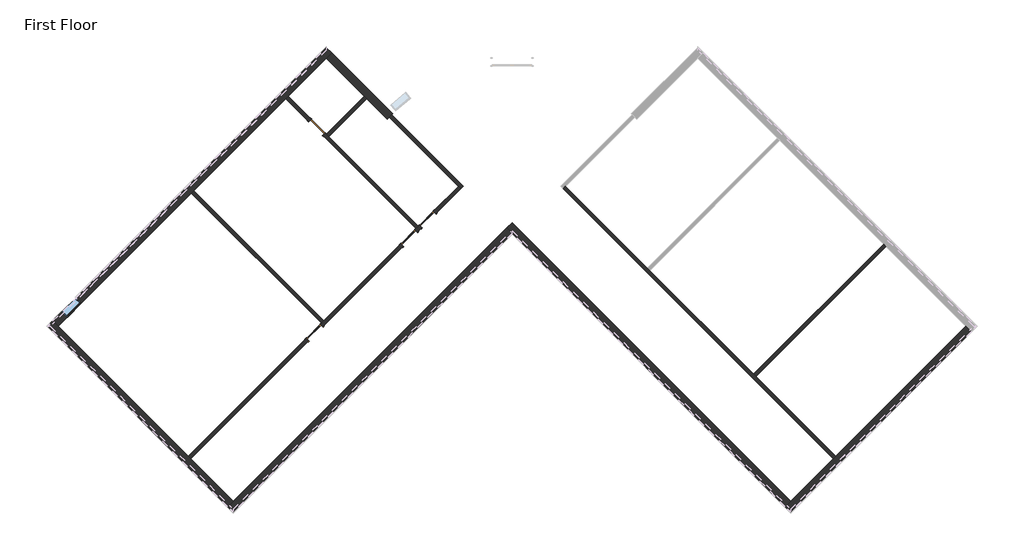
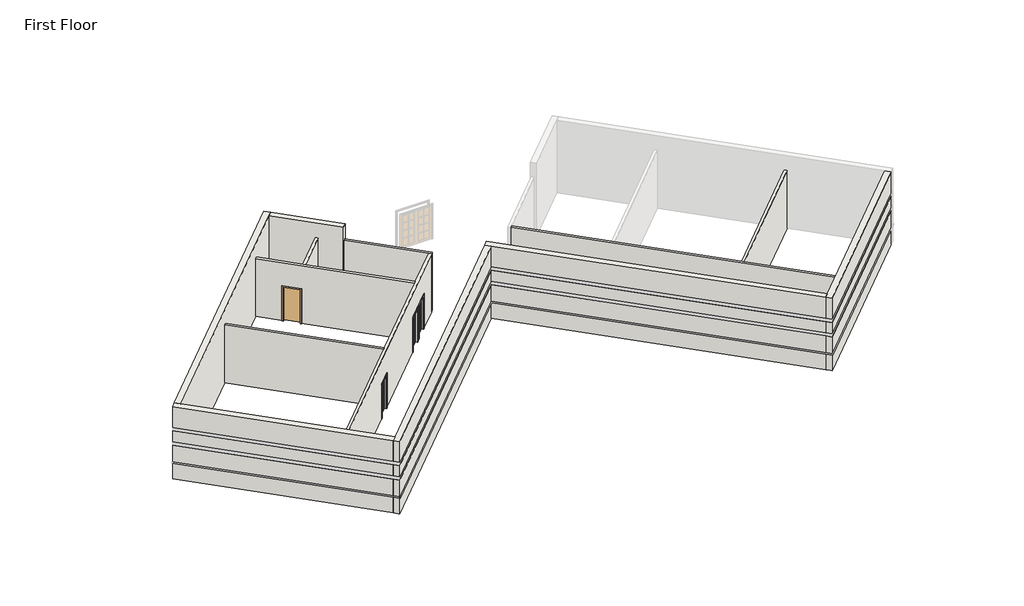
# One storey, part 1 of 2: 13 walls, 4 doors, 1 window.
"""IFC4 building model written with IfcOpenShell, lengths in millimetres."""

from ifc_helpers import new_model, si_unit, frame, origin, origin_with_axes, place, context, project, spatial, polyline, circle_curve, outline, extrude, faceted_brep, transform, mapped, element, save
from ifc_brep_helpers import plane_surface, cylinder_surface, revolved_surface, advanced_brep
from components import door_f9494b7c, door_b81abb0e, door_5f5b55da, window_15c49d37

model = new_model("IFC4")

# Units and contexts
model_context = context("Model", 3, world=origin())
ifc_project = project(units=[si_unit("LENGTHUNIT", "METRE", prefix="MILLI")], contexts=[model_context])

# Site, building, storey
site = spatial("IfcSite", under=ifc_project)
building = spatial("IfcBuilding", under=site)
storey = spatial("IfcBuildingStorey", under=building, Name="First Floor", Elevation=0.0)

# Doors
placement = place(None, origin())
door_shape = door_f9494b7c(model_context)
element("IfcDoor", 1, ObjectType="Single-Flush : 36\" x 84\"", at=placement, inside=storey, context=model_context, shape_type="MappedRepresentation", body=[
    mapped(door_shape, transform((-11920.1265343, 7875.9588464, 0.0), x_axis=(0.7071067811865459, -0.7071067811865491, 0.0), y_axis=(0.7071067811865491, 0.7071067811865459, 0.0), z_axis=(0.0, 0.0, 1.0))),
])
door_2_shape = door_b81abb0e(model_context)
element("IfcDoor", 2, ObjectType="Single-Glass 1 : 36\" x 84\"", at=placement, inside=storey, context=model_context, shape_type="MappedRepresentation", body=[
    mapped(door_2_shape, transform((-12027.7718255, -1647.4849877, 0.0), x_axis=(0.7071067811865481, 0.7071067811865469, 0.0), y_axis=(-0.7071067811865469, 0.7071067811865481, 0.0), z_axis=(0.0, 0.0, 1.0))),
])
element("IfcDoor", 3, ObjectType="Single-Glass 1 : 36\" x 84\"", at=placement, inside=storey, context=model_context, shape_type="MappedRepresentation", body=[
    mapped(door_2_shape, transform((-7643.2795567, 2737.0072811, 0.0), x_axis=(0.7071067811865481, 0.7071067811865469, 0.0), y_axis=(-0.7071067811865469, 0.7071067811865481, 0.0), z_axis=(0.0, 0.0, 1.0))),
])
door_3_shape = door_5f5b55da(model_context)
element("IfcDoor", 4, ObjectType="Single-Glass 1 : 36\" x 84\"", at=placement, inside=storey, context=model_context, shape_type="MappedRepresentation", body=[
    mapped(door_3_shape, transform((-6781.1749691, 3599.1118687, 0.0), x_axis=(-0.7071067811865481, -0.7071067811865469, 0.0), y_axis=(0.7071067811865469, -0.7071067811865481, 0.0), z_axis=(0.0, 0.0, 1.0))),
])

# Walls
element("IfcWall", 5, ObjectType="Exterior - Split Face and CMU on Mtl. Stud", at=placement, inside=storey, context=model_context, shape_type="Brep", body=[
    faceted_brep([(18186.1821115, -1357.9895101, 4572.0), (10063.54045, -9480.6311716, 4572.0), (9814.3383427, -9729.833279, 4572.0), (10063.54045, -9979.0353863, 4572.0), (18435.3842189, -1607.1916175, 4572.0), (18186.1821115, -1357.9895101, 0.0), (12149.2049342, -7394.9666875, 0.0), (12039.1967967, -7504.974825, 0.0), (10063.54045, -9480.6311716, 0.0), (9814.3383427, -9729.833279, 0.0), (9814.3383427, -9729.833279, 1016.0), (9879.4451996, -9664.7264221, 1016.0), (9879.4451996, -9664.7264221, 1085.85), (9814.3383427, -9729.833279, 1085.85), (9814.3383427, -9729.833279, 2133.6), (9879.4451996, -9664.7264221, 2133.6), (9879.4451996, -9664.7264221, 2336.8), (9814.3383427, -9729.833279, 2336.8), (9814.3383427, -9729.833279, 3048.0), (9879.4451996, -9664.7264221, 3048.0), (9879.4451996, -9664.7264221, 3251.2), (9814.3383427, -9729.833279, 3251.2), (10063.54045, -9979.0353863, 3251.2), (18435.3842189, -1607.1916175, 3251.2), (10063.54045, -9979.0353863, 0.0), (18435.3842189, -1607.1916175, 0.0), (18435.3842189, -1607.1916175, 1016.0), (10063.54045, -9979.0353863, 1016.0), (10063.54045, -9979.0353863, 1085.85), (18435.3842189, -1607.1916175, 1085.85), (18435.3842189, -1607.1916175, 2133.6), (10063.54045, -9979.0353863, 2133.6), (10063.54045, -9979.0353863, 2336.8), (18435.3842189, -1607.1916175, 2336.8), (18435.3842189, -1607.1916175, 3048.0), (10063.54045, -9979.0353863, 3048.0), (18370.277362, -1542.0847606, 0.0), (9998.4335932, -9913.9285294, 0.0), (18370.277362, -1542.0847606, 3251.2), (18370.277362, -1542.0847606, 3048.0), (18370.277362, -1542.0847606, 2336.8), (18370.277362, -1542.0847606, 2133.6), (18370.277362, -1542.0847606, 1085.85), (18370.277362, -1542.0847606, 1016.0), (10063.54045, -9848.8216726, 1085.85), (10063.54045, -9848.8216726, 1016.0), (10063.54045, -9848.8216726, 2133.6), (10063.54045, -9848.8216726, 2336.8), (10063.54045, -9848.8216726, 3048.0), (10063.54045, -9848.8216726, 3251.2)], [[[0, 1, 2, 3, 4]], [[5, 6, 7, 8, 9, 10, 11, 12, 13, 14, 15, 16, 17, 18, 19, 20, 21, 2, 1, 0]], [[4, 3, 22, 23]], [[24, 25, 26, 27]], [[28, 29, 30, 31]], [[32, 33, 34, 35]], [[9, 8, 7, 6, 5, 36, 37]], [[5, 0, 4, 23, 38, 39, 34, 33, 40, 41, 30, 29, 42, 43, 26, 25, 36]], [[25, 24, 37, 36]], [[3, 2, 21, 22]], [[9, 37, 24, 27, 10]], [[13, 28, 31, 14]], [[17, 32, 35, 18]], [[12, 44, 42, 29, 28, 13]], [[43, 45, 11, 10, 27, 26]], [[44, 45, 43, 42]], [[45, 44, 12, 11]], [[41, 46, 15, 14, 31, 30]], [[16, 47, 40, 33, 32, 17]], [[47, 46, 41, 40]], [[46, 47, 16, 15]], [[39, 48, 19, 18, 35, 34]], [[20, 49, 38, 23, 22, 21]], [[49, 48, 39, 38]], [[48, 49, 20, 19]]]),
])
element("IfcWall", 6, ObjectType="Exterior - Split Face and CMU on Mtl. Stud", at=placement, inside=storey, context=model_context, shape_type="Brep", body=[
    faceted_brep([(10063.54045, -9480.6311716, 0.0), (-2868.0283643, 3450.9376427, 0.0), (-2868.0283643, 3450.9376427, 4572.0), (10063.54045, -9480.6311716, 4572.0), (9814.3383427, -9729.833279, 4572.0), (-2868.0283643, 2952.533428, 4572.0), (-3117.2304717, 3201.7355354, 4572.0), (-3117.2304717, 3201.7355354, 0.0), (-2868.0283643, 2952.533428, 0.0), (9814.3383427, -9729.833279, 0.0), (9814.3383427, -9729.833279, 1016.0), (-2868.0283643, 2952.533428, 1016.0), (-2933.1352212, 3017.6402849, 1016.0), (-2933.1352212, 3017.6402849, 1085.85), (-2868.0283643, 2952.533428, 1085.85), (9814.3383427, -9729.833279, 1085.85), (9814.3383427, -9729.833279, 2133.6), (-2868.0283643, 2952.533428, 2133.6), (-2933.1352212, 3017.6402849, 2133.6), (-2933.1352212, 3017.6402849, 2336.8), (-2868.0283643, 2952.533428, 2336.8), (9814.3383427, -9729.833279, 2336.8), (9814.3383427, -9729.833279, 3048.0), (-2868.0283643, 2952.533428, 3048.0), (-2933.1352212, 3017.6402849, 3048.0), (-2933.1352212, 3017.6402849, 3251.2), (-2868.0283643, 2952.533428, 3251.2), (9814.3383427, -9729.833279, 3251.2), (-3052.1236148, 3266.8423923, 0.0), (9879.4451996, -9664.7264221, 3251.2), (9879.4451996, -9664.7264221, 3048.0), (9879.4451996, -9664.7264221, 2336.8), (9879.4451996, -9664.7264221, 2133.6), (9879.4451996, -9664.7264221, 1085.85), (9879.4451996, -9664.7264221, 1016.0), (9879.4451996, -9664.7264221, 0.0), (-2868.0283643, 3082.7471418, 1085.85), (-2868.0283643, 3082.7471418, 1016.0), (-2868.0283643, 3082.7471418, 2133.6), (-2868.0283643, 3082.7471418, 2336.8), (-2868.0283643, 3082.7471418, 3048.0), (-2868.0283643, 3082.7471418, 3251.2)], [[[0, 1, 2, 3]], [[4, 5, 6, 7, 8, 9, 10, 11, 12, 13, 14, 15, 16, 17, 18, 19, 20, 21, 22, 23, 24, 25, 26, 27]], [[3, 2, 6, 5, 4]], [[2, 1, 28, 7, 6]], [[0, 3, 4, 27, 29, 30, 22, 21, 31, 32, 16, 15, 33, 34, 10, 9, 35]], [[1, 0, 35, 28]], [[35, 9, 8, 7, 28]], [[13, 36, 33, 15, 14]], [[34, 37, 12, 11, 10]], [[36, 37, 34, 33]], [[37, 36, 13, 12]], [[32, 38, 18, 17, 16]], [[19, 39, 31, 21, 20]], [[39, 38, 32, 31]], [[38, 39, 19, 18]], [[30, 40, 24, 23, 22]], [[25, 41, 29, 27, 26]], [[41, 40, 30, 29]], [[40, 41, 25, 24]]]),
])
element("IfcWall", 7, ObjectType="Exterior - Split Face and CMU on Mtl. Stud", at=placement, inside=storey, context=model_context, shape_type="Brep", body=[
    faceted_brep([(-3117.2304717, 3201.7355354, 4572.0), (-15799.5971786, -9480.6311716, 4572.0), (-16048.799286, -9729.833279, 4572.0), (-15799.5971786, -9979.0353863, 4572.0), (-2868.0283643, 2952.533428, 4572.0), (-3117.2304717, 3201.7355354, 0.0), (-15799.5971786, -9480.6311716, 0.0), (-16048.799286, -9729.833279, 0.0), (-16048.799286, -9729.833279, 1016.0), (-15983.6924291, -9664.7264221, 1016.0), (-15983.6924291, -9664.7264221, 1085.85), (-16048.799286, -9729.833279, 1085.85), (-16048.799286, -9729.833279, 2133.6), (-15983.6924291, -9664.7264221, 2133.6), (-15983.6924291, -9664.7264221, 2336.8), (-16048.799286, -9729.833279, 2336.8), (-16048.799286, -9729.833279, 3048.0), (-15983.6924291, -9664.7264221, 3048.0), (-15983.6924291, -9664.7264221, 3251.2), (-16048.799286, -9729.833279, 3251.2), (-15799.5971786, -9979.0353863, 3251.2), (-2868.0283643, 2952.533428, 3251.2), (-15799.5971786, -9979.0353863, 0.0), (-2868.0283643, 2952.533428, 0.0), (-2868.0283643, 2952.533428, 1016.0), (-15799.5971786, -9979.0353863, 1016.0), (-15799.5971786, -9979.0353863, 1085.85), (-2868.0283643, 2952.533428, 1085.85), (-2868.0283643, 2952.533428, 2133.6), (-15799.5971786, -9979.0353863, 2133.6), (-15799.5971786, -9979.0353863, 2336.8), (-2868.0283643, 2952.533428, 2336.8), (-2868.0283643, 2952.533428, 3048.0), (-15799.5971786, -9979.0353863, 3048.0), (-2933.1352212, 3017.6402849, 0.0), (-15864.7040355, -9913.9285294, 0.0), (-2933.1352212, 3017.6402849, 3251.2), (-2933.1352212, 3017.6402849, 3048.0), (-2933.1352212, 3017.6402849, 2336.8), (-2933.1352212, 3017.6402849, 2133.6), (-2933.1352212, 3017.6402849, 1085.85), (-2933.1352212, 3017.6402849, 1016.0), (-15799.5971786, -9848.8216726, 1085.85), (-15799.5971786, -9848.8216726, 1016.0), (-15799.5971786, -9848.8216726, 2133.6), (-15799.5971786, -9848.8216726, 2336.8), (-15799.5971786, -9848.8216726, 3048.0), (-15799.5971786, -9848.8216726, 3251.2)], [[[0, 1, 2, 3, 4]], [[5, 6, 7, 8, 9, 10, 11, 12, 13, 14, 15, 16, 17, 18, 19, 2, 1, 0]], [[4, 3, 20, 21]], [[22, 23, 24, 25]], [[26, 27, 28, 29]], [[30, 31, 32, 33]], [[7, 6, 5, 34, 35]], [[5, 0, 4, 21, 36, 37, 32, 31, 38, 39, 28, 27, 40, 41, 24, 23, 34]], [[23, 22, 35, 34]], [[3, 2, 19, 20]], [[7, 35, 22, 25, 8]], [[11, 26, 29, 12]], [[15, 30, 33, 16]], [[10, 42, 40, 27, 26, 11]], [[41, 43, 9, 8, 25, 24]], [[42, 43, 41, 40]], [[43, 42, 10, 9]], [[39, 44, 13, 12, 29, 28]], [[14, 45, 38, 31, 30, 15]], [[45, 44, 39, 38]], [[44, 45, 14, 13]], [[37, 46, 17, 16, 33, 32]], [[18, 47, 36, 21, 20, 19]], [[47, 46, 37, 36]], [[46, 47, 18, 17]]]),
])
element("IfcWall", 8, ObjectType="Exterior - Split Face and CMU on Mtl. Stud", at=placement, inside=storey, context=model_context, shape_type="Brep", body=[
    faceted_brep([(-15799.5971786, -9480.6311716, 4572.0), (-23922.2388402, -1357.9895101, 4572.0), (-24171.4409475, -1108.7874027, 4572.0), (-24420.6430549, -1357.9895101, 4572.0), (-16048.799286, -9729.833279, 4572.0), (-15799.5971786, -9480.6311716, 0.0), (-17775.2535253, -7504.974825, 0.0), (-17885.2616628, -7394.9666875, 0.0), (-23922.2388402, -1357.9895101, 0.0), (-24171.4409475, -1108.7874027, 0.0), (-24171.4409475, -1108.7874027, 1016.0), (-24106.3340906, -1173.8942596, 1016.0), (-24106.3340906, -1173.8942596, 1085.85), (-24171.4409475, -1108.7874027, 1085.85), (-24171.4409475, -1108.7874027, 2133.6), (-24106.3340906, -1173.8942596, 2133.6), (-24106.3340906, -1173.8942596, 2336.8), (-24171.4409475, -1108.7874027, 2336.8), (-24171.4409475, -1108.7874027, 3048.0), (-24106.3340906, -1173.8942596, 3048.0), (-24106.3340906, -1173.8942596, 3251.2), (-24171.4409475, -1108.7874027, 3251.2), (-24420.6430549, -1357.9895101, 3251.2), (-16048.799286, -9729.833279, 3251.2), (-24420.6430549, -1357.9895101, 0.0), (-16048.799286, -9729.833279, 0.0), (-16048.799286, -9729.833279, 1016.0), (-24420.6430549, -1357.9895101, 1016.0), (-24420.6430549, -1357.9895101, 1085.85), (-16048.799286, -9729.833279, 1085.85), (-16048.799286, -9729.833279, 2133.6), (-24420.6430549, -1357.9895101, 2133.6), (-24420.6430549, -1357.9895101, 2336.8), (-16048.799286, -9729.833279, 2336.8), (-16048.799286, -9729.833279, 3048.0), (-24420.6430549, -1357.9895101, 3048.0), (-15983.6924291, -9664.7264221, 0.0), (-24355.536198, -1292.8826532, 0.0), (-15983.6924291, -9664.7264221, 3251.2), (-15983.6924291, -9664.7264221, 3048.0), (-15983.6924291, -9664.7264221, 2336.8), (-15983.6924291, -9664.7264221, 2133.6), (-15983.6924291, -9664.7264221, 1085.85), (-15983.6924291, -9664.7264221, 1016.0), (-24290.4293411, -1357.9895101, 1085.85), (-24290.4293411, -1357.9895101, 1016.0), (-24290.4293411, -1357.9895101, 2133.6), (-24290.4293411, -1357.9895101, 2336.8), (-24290.4293411, -1357.9895101, 3048.0), (-24290.4293411, -1357.9895101, 3251.2)], [[[0, 1, 2, 3, 4]], [[5, 6, 7, 8, 9, 10, 11, 12, 13, 14, 15, 16, 17, 18, 19, 20, 21, 2, 1, 0]], [[4, 3, 22, 23]], [[24, 25, 26, 27]], [[28, 29, 30, 31]], [[32, 33, 34, 35]], [[9, 8, 7, 6, 5, 36, 37]], [[5, 0, 4, 23, 38, 39, 34, 33, 40, 41, 30, 29, 42, 43, 26, 25, 36]], [[25, 24, 37, 36]], [[3, 2, 21, 22]], [[9, 37, 24, 27, 10]], [[13, 28, 31, 14]], [[17, 32, 35, 18]], [[12, 44, 42, 29, 28, 13]], [[43, 45, 11, 10, 27, 26]], [[44, 45, 43, 42]], [[45, 44, 12, 11]], [[41, 46, 15, 14, 31, 30]], [[16, 47, 40, 33, 32, 17]], [[47, 46, 41, 40]], [[46, 47, 16, 15]], [[39, 48, 19, 18, 35, 34]], [[20, 49, 38, 23, 22, 21]], [[49, 48, 39, 38]], [[48, 49, 20, 19]]]),
])
element("IfcWall", 9, ObjectType="Exterior - Split Face and CMU on Mtl. Stud", at=placement, inside=storey, context=model_context, shape_type="Brep", body=[
    faceted_brep([(-23922.2388402, -1357.9895101, 4572.0), (-11489.0742405, 11075.1750895, 4572.0), (-11239.8721332, 11324.3771969, 4572.0), (-11489.0742405, 11573.5793042, 4572.0), (-24171.4409475, -1108.7874027, 4572.0), (-23922.2388402, -1357.9895101, 0.0), (-17743.7048466, 4820.5444835, 0.0), (-17633.6967091, 4930.552621, 0.0), (-13359.2125777, 9205.0367523, 0.0), (-13249.2044403, 9315.0448898, 0.0), (-11489.0742405, 11075.1750895, 0.0), (-11239.8721332, 11324.3771969, 0.0), (-11239.8721332, 11324.3771969, 1016.0), (-11304.9789901, 11259.27034, 1016.0), (-11304.9789901, 11259.27034, 1085.85), (-11239.8721332, 11324.3771969, 1085.85), (-11239.8721332, 11324.3771969, 2133.6), (-11304.9789901, 11259.27034, 2133.6), (-11304.9789901, 11259.27034, 2336.8), (-11239.8721332, 11324.3771969, 2336.8), (-11239.8721332, 11324.3771969, 3048.0), (-11304.9789901, 11259.27034, 3048.0), (-11304.9789901, 11259.27034, 3251.2), (-11239.8721332, 11324.3771969, 3251.2), (-23508.0245266, -943.7751965, 914.4), (-23508.0245266, -943.7751965, 2133.6), (-22861.4460859, -297.1967558, 2133.6), (-22861.4460859, -297.1967558, 914.4), (-11489.0742405, 11573.5793042, 3251.2), (-24171.4409475, -1108.7874027, 3251.2), (-11489.0742405, 11573.5793042, 0.0), (-24171.4409475, -1108.7874027, 0.0), (-24171.4409475, -1108.7874027, 1016.0), (-23757.2266339, -694.5730891, 1016.0), (-23757.2266339, -694.5730891, 914.4), (-23110.6481932, -47.9946484, 914.4), (-23110.6481932, -47.9946484, 1016.0), (-11489.0742405, 11573.5793042, 1016.0), (-23110.6481932, -47.9946484, 2133.6), (-23757.2266339, -694.5730891, 2133.6), (-23757.2266339, -694.5730891, 2336.8), (-24171.4409475, -1108.7874027, 2336.8), (-24171.4409475, -1108.7874027, 3048.0), (-11489.0742405, 11573.5793042, 3048.0), (-11489.0742405, 11573.5793042, 2336.8), (-23110.6481932, -47.9946484, 2336.8), (-23757.2266339, -694.5730891, 1085.85), (-24171.4409475, -1108.7874027, 1085.85), (-24171.4409475, -1108.7874027, 2133.6), (-23110.6481932, -47.9946484, 1085.85), (-11489.0742405, 11573.5793042, 2133.6), (-11489.0742405, 11573.5793042, 1085.85), (-24106.3340906, -1173.8942596, 0.0), (-11423.9673837, 11508.4724474, 0.0), (-24106.3340906, -1173.8942596, 3251.2), (-24106.3340906, -1173.8942596, 3048.0), (-24106.3340906, -1173.8942596, 2336.8), (-24106.3340906, -1173.8942596, 2133.6), (-24106.3340906, -1173.8942596, 1085.85), (-24106.3340906, -1173.8942596, 1016.0), (-23692.119777, -759.679946, 1016.0), (-23692.119777, -759.679946, 1085.85), (-23692.119777, -759.679946, 2133.6), (-23045.5413363, -113.1015053, 2133.6), (-23045.5413363, -113.1015053, 1085.85), (-23045.5413363, -113.1015053, 1016.0), (-11489.0742405, 11443.3655905, 1085.85), (-11489.0742405, 11443.3655905, 1016.0), (-23692.119777, -759.679946, 2133.6), (-23692.119777, -759.679946, 2336.8), (-23045.5413363, -113.1015053, 2133.6), (-23045.5413363, -113.1015053, 2336.8), (-11489.0742405, 11443.3655905, 2133.6), (-11489.0742405, 11443.3655905, 2336.8), (-11489.0742405, 11443.3655905, 3048.0), (-11489.0742405, 11443.3655905, 3251.2)], [[[0, 1, 2, 3, 4]], [[5, 6, 7, 8, 9, 10, 11, 12, 13, 14, 15, 16, 17, 18, 19, 20, 21, 22, 23, 2, 1, 0], [24, 25, 26, 27]], [[4, 3, 28, 29]], [[30, 31, 32, 33, 34, 35, 36, 37]], [[38, 39, 40, 41, 42, 43, 44, 45]], [[39, 46, 47, 48]], [[49, 38, 50, 51]], [[11, 10, 9, 8, 7, 6, 5, 52, 53]], [[5, 0, 4, 29, 54, 55, 42, 41, 56, 57, 48, 47, 58, 59, 32, 31, 52]], [[31, 30, 53, 52]], [[3, 2, 23, 28]], [[11, 53, 30, 37, 12]], [[15, 51, 50, 16]], [[19, 44, 43, 20]], [[25, 24, 34, 33, 60, 61, 46, 39, 62]], [[35, 34, 24, 27]], [[27, 26, 63, 38, 49, 64, 65, 36, 35]], [[39, 38, 63, 26, 25, 62]], [[61, 58, 47, 46]], [[59, 60, 33, 32]], [[58, 61, 60, 59]], [[66, 64, 49, 51, 15, 14]], [[65, 67, 13, 12, 37, 36]], [[64, 66, 67, 65]], [[67, 66, 14, 13]], [[68, 39, 48, 57]], [[40, 69, 56, 41]], [[39, 68, 69, 40]], [[69, 68, 57, 56]], [[70, 38, 45, 71]], [[38, 70, 72, 17, 16, 50]], [[70, 71, 73, 72]], [[71, 45, 44, 19, 18, 73]], [[72, 73, 18, 17]], [[55, 74, 21, 20, 43, 42]], [[22, 75, 54, 29, 28, 23]], [[75, 74, 55, 54]], [[74, 75, 22, 21]]]),
])
element("IfcWall", 10, ObjectType="Exterior - Split Face and CMU on Mtl. Stud", at=placement, inside=storey, context=model_context, shape_type="AdvancedBrep", body=[
    advanced_brep(
    [(-11489.0742405, 11075.1750895, 0.0), (-9728.9440408, 9315.0448898, 0.0), (-9618.9359033, 9205.0367523, 0.0), (-8658.0122729, 8244.1131219, 0.0), (-8658.0122729, 8244.1131219, 4572.0), (-11489.0742405, 11075.1750895, 4572.0), (-11239.8721332, 11324.3771969, 4572.0), (-8662.486224, 8746.9912878, 4572.0), (-8413.2817722, 8497.7868359, 4572.0), (-8413.2817722, 8497.7868359, 0.0), (-8662.486224, 8746.9912878, 0.0), (-11239.8721332, 11324.3771969, 0.0), (-11239.8721332, 11324.3771969, 1016.0), (-8662.486224, 8746.9912878, 1016.0), (-8597.3787742, 8681.8838379, 1016.0), (-8597.3787742, 8681.8838379, 1085.85), (-8662.486224, 8746.9912878, 1085.85), (-11239.8721332, 11324.3771969, 1085.85), (-11239.8721332, 11324.3771969, 2133.6), (-8662.486224, 8746.9912878, 2133.6), (-8597.3787742, 8681.8838379, 2133.6), (-8597.3787742, 8681.8838379, 2336.8), (-8662.486224, 8746.9912878, 2336.8), (-11239.8721332, 11324.3771969, 2336.8), (-11239.8721332, 11324.3771969, 3048.0), (-8662.486224, 8746.9912878, 3048.0), (-8597.3787742, 8681.8838379, 3048.0), (-8597.3787742, 8681.8838379, 3251.2), (-8662.486224, 8746.9912878, 3251.2), (-11239.8721332, 11324.3771969, 3251.2), (-8557.713594, 8350.8358404, 0.0), (-8478.2967797, 8432.5881297, 0.0), (-8449.0111375, 8462.1452813, 0.0), (-11304.9789901, 11259.27034, 3251.2), (-11304.9789901, 11259.27034, 3048.0), (-11304.9789901, 11259.27034, 2336.8), (-11304.9789901, 11259.27034, 2133.6), (-11304.9789901, 11259.27034, 1085.85), (-11304.9789901, 11259.27034, 1016.0), (-11304.9789901, 11259.27034, 0.0), (-8662.3967205, 8616.6880705, 1085.85), (-8662.3967205, 8616.6880705, 1016.0), (-8662.3967205, 8616.6880705, 2336.8), (-8662.3967205, 8616.6880705, 2133.6), (-8662.3967205, 8616.6880705, 3251.2), (-8662.3967205, 8616.6880705, 3048.0)],
    [
        (0, 1),
        (1, 2),
        (2, 3),
        (3, 4),
        (4, 5),
        (5, 0),
        (6, 7),
        (7, 8),
        (8, 9),
        (9, 10),
        (10, 11),
        (11, 12),
        (12, 13),
        (13, 14),
        (14, 15),
        (15, 16),
        (16, 17),
        (17, 18),
        (18, 19),
        (19, 20),
        (20, 21),
        (21, 22),
        (22, 23),
        (23, 24),
        (24, 25),
        (25, 26),
        (26, 27),
        (27, 28),
        (28, 29),
        (29, 6),
        (4, 8, circle_curve(frame((-2868.0283643, 2903.1420194, 4572.0), z_axis=(0.0, 0.0, -1.0), x_axis=(1.0, 0.0, 0.0)), 7877.175)),
        (6, 5),
        (3, 30, circle_curve(frame((-2868.0283643, 2903.1420194, 0.0), z_axis=(0.0, 0.0, -1.0), x_axis=(1.0, 0.0, 0.0)), 7877.175)),
        (30, 31, circle_curve(frame((-2868.0283643, 2903.1420194, 0.0), z_axis=(0.0, 0.0, -1.0), x_axis=(1.0, 0.0, 0.0)), 7877.175)),
        (31, 32, circle_curve(frame((-2868.0283643, 2903.1420194, 0.0), z_axis=(0.0, 0.0, -1.0), x_axis=(1.0, 0.0, 0.0)), 7877.175)),
        (32, 9, circle_curve(frame((-2868.0283643, 2903.1420194, 0.0), z_axis=(0.0, 0.0, -1.0), x_axis=(1.0, 0.0, 0.0)), 7877.175)),
        (29, 33),
        (33, 34),
        (34, 24),
        (23, 35),
        (35, 36),
        (36, 18),
        (17, 37),
        (37, 38),
        (38, 12),
        (11, 39),
        (39, 0),
        (39, 31),
        (40, 41),
        (41, 38),
        (37, 40),
        (15, 40, circle_curve(frame((-2868.0283643, 2903.1420194, 1085.85), z_axis=(0.0, 0.0, 1.0), x_axis=(-0.7040995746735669, 0.7101012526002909, 0.0)), 8137.525)),
        (41, 14, circle_curve(frame((-2868.0283643, 2903.1420194, 1016.0), z_axis=(0.0, 0.0, -1.0), x_axis=(-0.7040995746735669, 0.7101012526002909, 0.0)), 8137.525)),
        (42, 43),
        (43, 36),
        (35, 42),
        (43, 20, circle_curve(frame((-2868.0283643, 2903.1420194, 2133.6), z_axis=(0.0, 0.0, -1.0), x_axis=(-0.7120553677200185, 0.70212331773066, 0.0)), 8137.525)),
        (42, 21, circle_curve(frame((-2868.0283643, 2903.1420194, 2336.8), z_axis=(0.0, 0.0, -1.0), x_axis=(-0.7120553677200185, 0.70212331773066, 0.0)), 8137.525)),
        (44, 45),
        (45, 34),
        (33, 44),
        (45, 26, circle_curve(frame((-2868.0283643, 2903.1420194, 3048.0), z_axis=(0.0, 0.0, -1.0), x_axis=(-0.7120553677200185, 0.70212331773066, 0.0)), 8137.525)),
        (44, 27, circle_curve(frame((-2868.0283643, 2903.1420194, 3251.2), z_axis=(0.0, 0.0, -1.0), x_axis=(-0.7120553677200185, 0.70212331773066, 0.0)), 8137.525)),
    ],
    [
        plane_surface(frame((-11738.2763479, 11324.3771969, 0.0), z_axis=(-0.7071067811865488, -0.7071067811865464, 0.0), x_axis=(0.7071067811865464, -0.7071067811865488, 0.0))),
        plane_surface(frame((-11489.0742405, 11573.5793042, 0.0), z_axis=(0.7071067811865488, 0.7071067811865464, 0.0), x_axis=(-0.7071067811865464, 0.7071067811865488, 0.0))),
        plane_surface(frame((-8786.2632499, 8372.3640989, 4572.0), z_axis=(0.0, 0.0, 1.0), x_axis=(0.7071067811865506, 0.7071067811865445, 0.0))),
        revolved_surface(polyline([(5009.146635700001, 2903.1420194, 0.0), (5009.146635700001, 2903.1420194, 4572.0)]), (-2868.0283643, 2903.1420194, 0.0), (0.0, 0.0, -1.0)),
        plane_surface(frame((-24171.4409475, -1607.1916175, 0.0), z_axis=(-0.7071067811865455, 0.7071067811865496, 0.0), x_axis=(0.7071067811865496, 0.7071067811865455, 0.0))),
        plane_surface(frame((-11613.6752942, 11199.7761432, 0.0), z_axis=(0.0, 0.0, -1.0000000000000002), x_axis=(0.7071067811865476, 0.7071067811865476, 0.0))),
        plane_surface(frame((0.0, 0.0, 0.0), z_axis=(0.0, 0.0, -1.0), x_axis=(1.0, 0.0, 0.0))),
        plane_surface(frame((-11489.0742405, 11443.3655905, 1016.0), z_axis=(0.7071067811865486, 0.7071067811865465, 0.0), x_axis=(0.7071067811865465, -0.7071067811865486, 0.0))),
        plane_surface(frame((-2868.0283643, 2903.1420194, 1085.85), z_axis=(0.0, 0.0, -1.0), x_axis=(-0.7040995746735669, 0.7101012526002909, 0.0))),
        plane_surface(frame((-2868.0283643, 2903.1420194, 1016.0), z_axis=(0.0, 0.0, 1.0), x_axis=(-0.7040995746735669, 0.7101012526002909, 0.0))),
        cylinder_surface(frame((-2868.0283643, 2903.1420194, 1016.0), z_axis=(0.0, 0.0, -1.0), x_axis=(-0.7040995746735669, 0.7101012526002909, 0.0)), 8137.525),
        plane_surface(frame((-11489.0742405, 11443.3655905, 2133.6), z_axis=(0.7071067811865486, 0.7071067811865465, 0.0), x_axis=(0.7071067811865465, -0.7071067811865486, 0.0))),
        plane_surface(frame((-2868.0283643, 2903.1420194, 2133.6), z_axis=(0.0, 0.0, 1.0), x_axis=(-0.7120553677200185, 0.70212331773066, 0.0))),
        cylinder_surface(frame((-2868.0283643, 2903.1420194, 2133.6), z_axis=(0.0, 0.0, -1.0), x_axis=(-0.7120553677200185, 0.70212331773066, 0.0)), 8137.525),
        plane_surface(frame((-2868.0283643, 2903.1420194, 2336.8), z_axis=(0.0, 0.0, -1.0), x_axis=(-0.7120553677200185, 0.70212331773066, 0.0))),
        plane_surface(frame((-11489.0742405, 11443.3655905, 3048.0), z_axis=(0.7071067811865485, 0.7071067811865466, 0.0), x_axis=(0.7071067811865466, -0.7071067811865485, 0.0))),
        plane_surface(frame((-2868.0283643, 2903.1420194, 3048.0), z_axis=(0.0, 0.0, 1.0), x_axis=(-0.7120553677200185, 0.70212331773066, 0.0))),
        cylinder_surface(frame((-2868.0283643, 2903.1420194, 3048.0), z_axis=(0.0, 0.0, -1.0), x_axis=(-0.7120553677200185, 0.70212331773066, 0.0)), 8137.525),
        plane_surface(frame((-2868.0283643, 2903.1420194, 3251.2), z_axis=(0.0, 0.0, -1.0), x_axis=(-0.7120553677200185, 0.70212331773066, 0.0))),
    ],
    [
        (0, [[1, 2, 3, 4, 5, 6]]),
        (1, [[7, 8, 9, 10, 11, 12, 13, 14, 15, 16, 17, 18, 19, 20, 21, 22, 23, 24, 25, 26, 27, 28, 29, 30]]),
        (2, [[-5, 31, -8, -7, 32]]),
        (3, [[-31, -4, 33, 34, 35, 36, -9]]),
        (4, [[-6, -32, -30, 37, 38, 39, -24, 40, 41, 42, -18, 43, 44, 45, -12, 46, 47]]),
        (5, [[-3, -2, -1, -47, 48, -34, -33]]),
        (6, [[-46, -11, -10, -36, -35, -48]]),
        (7, [[49, 50, -44, 51]]),
        (8, [[52, -51, -43, -17, -16]]),
        (9, [[-50, 53, -14, -13, -45]]),
        (10, [[-49, -52, -15, -53]]),
        (11, [[54, 55, -41, 56]]),
        (12, [[-55, 57, -20, -19, -42]]),
        (13, [[-54, 58, -21, -57]]),
        (14, [[-58, -56, -40, -23, -22]]),
        (15, [[59, 60, -38, 61]]),
        (16, [[-60, 62, -26, -25, -39]]),
        (17, [[-59, 63, -27, -62]]),
        (18, [[-63, -61, -37, -29, -28]]),
    ],
),
])
element("IfcWall", 11, ObjectType="Interior - 6 1/8\" Partition (2-hr)", at=placement, inside=storey, context=model_context, shape_type="Brep", body=[
    faceted_brep([(-7264.9862676, 3005.2924327, 0.0), (-7049.4601207, 3220.8185796, 0.0), (-7049.4601207, 3220.8185796, 2133.6), (-6402.88168, 3867.3970204, 2133.6), (-6402.88168, 3867.3970204, 0.0), (-5238.5804157, 5031.6982846, 0.0), (-5238.5804157, 5031.6982846, 3657.6), (-17775.2535253, -7504.974825, 3657.6), (-17775.2535253, -7504.974825, 0.0), (-12296.0569771, -2025.7782768, 0.0), (-12296.0569771, -2025.7782768, 2133.6), (-11649.4785364, -1379.1998361, 2133.6), (-11649.4785364, -1379.1998361, 0.0), (-7911.5647083, 2358.713992, 0.0), (-7911.5647083, 2358.713992, 2133.6), (-7264.9862676, 3005.2924327, 2133.6), (-7159.4682582, 3330.8267171, 2133.6), (-7159.4682582, 3330.8267171, 0.0), (-7212.2272629, 3278.0677124, 0.0), (-7322.2354004, 3168.0595749, 0.0), (-7374.9944051, 3115.3005702, 0.0), (-7374.9944051, 3115.3005702, 2133.6), (-8021.5728458, 2468.7221295, 2133.6), (-8021.5728458, 2468.7221295, 0.0), (-11596.7195317, -1106.4245564, 0.0), (-11706.7276692, -1216.4326939, 0.0), (-11759.4866739, -1269.1916986, 0.0), (-11759.4866739, -1269.1916986, 2133.6), (-12406.0651146, -1915.7701393, 2133.6), (-12406.0651146, -1915.7701393, 0.0), (-17885.2616628, -7394.9666875, 0.0), (-17885.2616628, -7394.9666875, 3657.6), (-11706.7276692, -1216.4326939, 3657.6), (-11596.7195317, -1106.4245564, 3657.6), (-7322.2354004, 3168.0595749, 3657.6), (-7212.2272629, 3278.0677124, 3657.6), (-5348.5885532, 5141.7064221, 3657.6), (-5348.5885532, 5141.7064221, 0.0), (-6512.8898174, 3977.4051578, 0.0), (-6512.8898174, 3977.4051578, 2133.6)], [[[0, 1, 2, 3, 4, 5, 6, 7, 8, 9, 10, 11, 12, 13, 14, 15]], [[16, 17, 18, 19, 20, 21, 22, 23, 24, 25, 26, 27, 28, 29, 30, 31, 32, 33, 34, 35, 36, 37, 38, 39]], [[20, 19, 18, 17, 1, 0]], [[9, 8, 30, 29]], [[13, 12, 26, 25, 24, 23]], [[38, 37, 5, 4]], [[7, 6, 36, 35, 34, 33, 32, 31]], [[8, 7, 31, 30]], [[6, 5, 37, 36]], [[27, 26, 12, 11]], [[28, 27, 11, 10]], [[29, 28, 10, 9]], [[21, 20, 0, 15]], [[22, 21, 15, 14]], [[23, 22, 14, 13]], [[2, 1, 17, 16]], [[3, 2, 16, 39]], [[4, 3, 39, 38]]]),
])
element("IfcWall", 12, ObjectType="Interior - 6 1/8\" Partition (2-hr)", at=placement, inside=storey, context=model_context, shape_type="Brep", body=[
    faceted_brep([(-7212.2272629, 3278.0677124, 0.0), (-11379.066103, 7444.9065526, 0.0), (-11489.0742405, 7554.9146901, 0.0), (-11541.8332452, 7607.6736948, 0.0), (-11541.8332452, 7607.6736948, 2133.6), (-12188.411686, 8254.2521355, 2133.6), (-12188.411686, 8254.2521355, 0.0), (-13249.2044403, 9315.0448898, 0.0), (-13249.2044403, 9315.0448898, 3657.6), (-11489.0742405, 7554.9146901, 3657.6), (-11379.066103, 7444.9065526, 3657.6), (-7212.2272629, 3278.0677124, 3657.6), (-11651.8413827, 7497.6655573, 2133.6), (-11651.8413827, 7497.6655573, 0.0), (-7322.2354004, 3168.0595749, 0.0), (-7322.2354004, 3168.0595749, 3657.6), (-13359.2125777, 9205.0367523, 3657.6), (-13359.2125777, 9205.0367523, 0.0), (-12298.4198234, 8144.243998, 0.0), (-12298.4198234, 8144.243998, 2133.6)], [[[0, 1, 2, 3, 4, 5, 6, 7, 8, 9, 10, 11]], [[12, 13, 14, 15, 16, 17, 18, 19]], [[14, 13, 3, 2, 1, 0]], [[18, 17, 7, 6]], [[11, 10, 9, 8, 16, 15]], [[8, 7, 17, 16]], [[0, 11, 15, 14]], [[4, 3, 13, 12]], [[5, 4, 12, 19]], [[6, 5, 19, 18]]]),
])
element("IfcWall", 13, ObjectType="Interior - 6 1/8\" Partition (2-hr)", at=placement, inside=storey, context=model_context, shape_type="AdvancedBrep", body=[
    advanced_brep(
    [(-5128.5722782, 5141.7064221, 0.0), (-8449.0111375, 8462.1452813, 0.0), (-8449.0111375, 8462.1452813, 3657.6), (-5128.5722782, 5141.7064221, 3657.6), (-5238.5804157, 5031.6982846, 0.0), (-5238.5804157, 5031.6982846, 3657.6), (-5348.5885532, 5141.7064221, 3657.6), (-8557.7157352, 8350.8336041, 3657.6), (-8557.7157352, 8350.8336041, 0.0), (-5348.5885532, 5141.7064221, 0.0)],
    [
        (0, 1),
        (1, 2),
        (2, 3),
        (3, 0),
        (4, 5),
        (5, 6),
        (6, 7),
        (7, 8),
        (8, 9),
        (9, 4),
        (0, 4),
        (8, 1, circle_curve(frame((-2868.0283643, 2903.1420194, 0.0), z_axis=(0.0, 0.0, -1.0), x_axis=(1.0, 0.0, 0.0)), 7877.175)),
        (2, 7, circle_curve(frame((-2868.0283643, 2903.1420194, 3657.6), z_axis=(0.0, 0.0, 1.0), x_axis=(1.0, 0.0, 0.0)), 7877.175)),
        (5, 3),
    ],
    [
        plane_surface(frame((-5183.576347, 5196.7104908, 0.0), z_axis=(0.7071067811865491, 0.7071067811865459, 0.0), x_axis=(-0.7071067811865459, 0.7071067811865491, 0.0))),
        plane_surface(frame((-5293.5844845, 5086.7023533, 0.0), z_axis=(-0.7071067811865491, -0.7071067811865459, 0.0), x_axis=(0.7071067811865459, -0.7071067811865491, 0.0))),
        plane_surface(frame((-5183.576347, 5196.7104908, 0.0), z_axis=(0.0, 0.0, -1.0), x_axis=(-0.707106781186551, -0.7071067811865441, 0.0))),
        plane_surface(frame((-8573.2406241, 8586.374768, 3657.6), z_axis=(0.0, 0.0, 1.0), x_axis=(-0.707106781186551, -0.7071067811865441, 0.0))),
        plane_surface(frame((-17899.854579, -7629.5758786, 0.0), z_axis=(0.7071067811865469, -0.7071067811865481, 0.0), x_axis=(0.7071067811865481, 0.7071067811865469, 0.0))),
        cylinder_surface(frame((-2868.0283643, 2903.1420194, 0.0), z_axis=(0.0, 0.0, -1.0), x_axis=(1.0, 0.0, 0.0)), 7877.175),
    ],
    [
        (0, [[1, 2, 3, 4]]),
        (1, [[5, 6, 7, 8, 9, 10]]),
        (2, [[-1, 11, -10, -9, 12]]),
        (3, [[-3, 13, -7, -6, 14]]),
        (4, [[-4, -14, -5, -11]]),
        (5, [[-2, -12, -8, -13]]),
    ],
),
])
element("IfcWall", 14, ObjectType="Interior - 6 1/8\" Partition (2-hr)", at=placement, inside=storey, context=model_context, shape_type="SweptSolid", body=[
    extrude(outline(polyline([(-11489.0742405, 7554.9146901), (-9728.9440408, 9315.0448898), (-9618.9359033, 9205.0367523), (-11379.066103, 7444.9065526), (-11489.0742405, 7554.9146901)])), origin_with_axes(), (0.0, 0.0, 1.0), 3657.6),
])
element("IfcWall", 15, ObjectType="Interior - 6 1/8\" Partition (2-hr)", at=placement, inside=storey, context=model_context, shape_type="SweptSolid", body=[
    extrude(outline(polyline([(-17633.6967091, 4930.552621), (-11596.7195317, -1106.4245564), (-11706.7276692, -1216.4326939), (-17743.7048466, 4820.5444835), (-17633.6967091, 4930.552621)])), origin_with_axes(), (0.0, 0.0, 1.0), 3657.6),
])
element("IfcWall", 16, ObjectType="Interior - 6 1/8\" Partition (2-hr)", at=placement, inside=storey, context=model_context, shape_type="Brep", body=[
    faceted_brep([(-387.4681754, 5141.7064221, 0.0), (3415.9058564, 1338.3323903, 0.0), (3525.9139939, 1228.3242528, 0.0), (8339.3312748, -3585.0930281, 0.0), (8449.3394123, -3695.1011656, 0.0), (12149.2049342, -7394.9666875, 0.0), (12039.1967967, -7504.974825, 0.0), (-497.4763129, 5031.6982846, 0.0), (12149.2049342, -7394.9666875, 3657.6), (8449.3394123, -3695.1011656, 3657.6), (8339.3312748, -3585.0930281, 3657.6), (3525.9139939, 1228.3242528, 3657.6), (3415.9058564, 1338.3323903, 3657.6), (-387.4681754, 5141.7064221, 3657.6), (-497.4763129, 5031.6982846, 3657.6), (12039.1967967, -7504.974825, 3657.6)], [[[0, 1, 2, 3, 4, 5, 6, 7]], [[8, 9, 10, 11, 12, 13, 14, 15]], [[5, 4, 3, 2, 1, 0, 13, 12, 11, 10, 9, 8]], [[6, 15, 14, 7]], [[13, 0, 7, 14]], [[5, 8, 15, 6]]]),
])
element("IfcWall", 17, ObjectType="Interior - 6 1/8\" Partition (2-hr)", at=placement, inside=storey, context=model_context, shape_type="SweptSolid", body=[
    extrude(outline(polyline([(8339.3312748, -3585.0930281), (14376.3084522, 2451.8841493), (14486.3165897, 2341.8760118), (8449.3394123, -3695.1011656), (8339.3312748, -3585.0930281)])), origin_with_axes(), (0.0, 0.0, 1.0), 3657.6),
])

# Window
window_shape = window_15c49d37(model_context)
element("IfcWindow", 18, ObjectType="Fixed : 36\" x 48\"", at=placement, inside=storey, context=model_context, shape_type="MappedRepresentation", body=[
    mapped(window_shape, transform((-23336.2771283, -522.8256908, 0.0), x_axis=(-0.7071067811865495, -0.7071067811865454, 0.0), y_axis=(0.7071067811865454, -0.7071067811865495, 0.0), z_axis=(0.0, 0.0, 1.0))),
])

save(model, "model.ifc")
